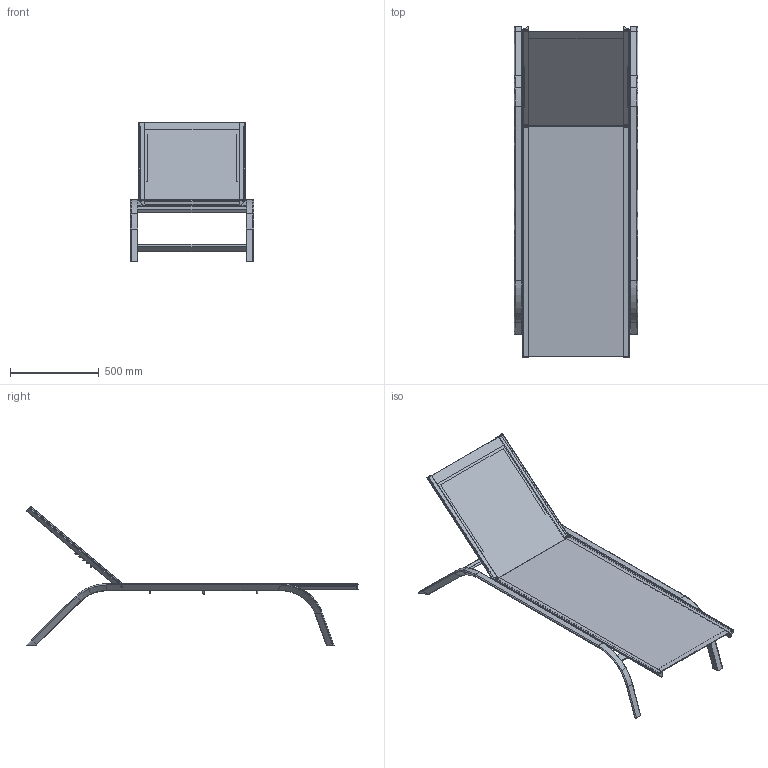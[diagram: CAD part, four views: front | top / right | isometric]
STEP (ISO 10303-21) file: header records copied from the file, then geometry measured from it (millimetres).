
FILE_DESCRIPTION(/* description */ (''),/* implementation_level */ '2;1');
FILE_NAME(/* name */ 'PANLEGRM',/* time_stamp */ '2024-05-21T16:11:28+02:00',/* author */ (''),/* organization */ (''),/* preprocessor_version */ 'ST-DEVELOPER v19.2',/* originating_system */ 'Rhino 8.6',/* authorisation */ '');
FILE_SCHEMA (('AUTOMOTIVE_DESIGN_CC2'));
Length unit declared in the file: millimetre
Products named in the file (1): Document
Bounding box: 693.98 x 1866.05 x 782.19 mm (x, y, z)
Volume: 11275647.6 mm3; surface area: 4034170 mm2
Topology: 35 solids, 35 shells, 715 faces, 1772 edges, 1128 vertices
Faces by surface type: plane 298, cylinder 275, bspline 142
Entity records: 28872 total; most frequent: CARTESIAN_POINT 13859, ORIENTED_EDGE 3540, DIRECTION 1797, EDGE_CURVE 1770, AXIS2_PLACEMENT_3D 1185, VERTEX_POINT 1128, B_SPLINE_CURVE_WITH_KNOTS 1101, EDGE_LOOP 778
